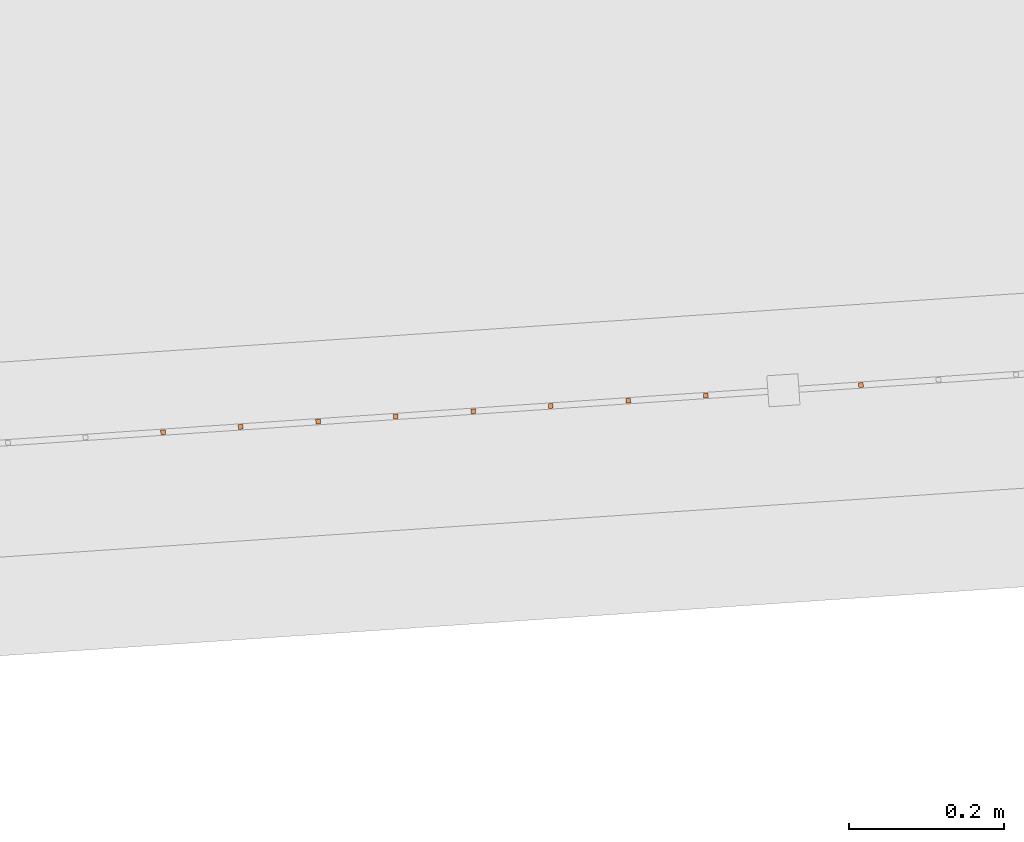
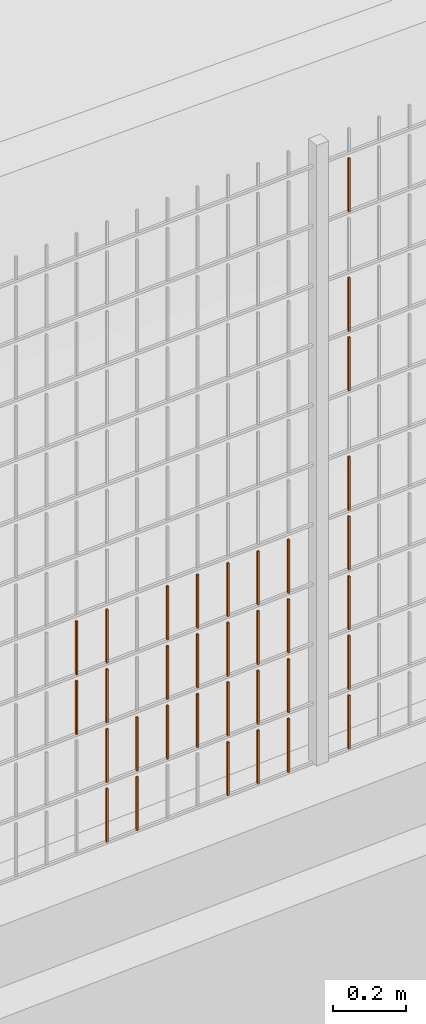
# One storey, part 364 of 1809: 34 proxies, 1 element without a shape of its own.
"""IFC2X3 building model written with IfcOpenShell, lengths in millimetres."""

import ifcopenshell
import ifcopenshell.guid

model = None  # the IFC model being written
_history = None  # IfcOwnerHistory: only IFC2X3 demands one
_inside = {}  # id of a spatial element -> (the spatial element, [elements in it])
_under = {}  # id of a project, library or spatial element -> (it, [spatial elements below it])
_declared = {}  # id of a project -> (the project, [libraries it declares])
_typed = {}  # id of a type object -> (the type object, [elements of that type])
_made_of = {}  # id of a material, layer set ... -> (it, [elements and type objects made of it])


def new_model(schema):
    """Start an empty IFC model of exactly this schema.

    Asked for "IFC4X3", IfcOpenShell would pick the latest addendum, in which some entities
    have other attributes; the version numbers below select the first issue.
    IFC2X3 requires an IfcOwnerHistory on every rooted entity: one is made here for all.
    """
    global model, _history
    if schema == "IFC4X3":
        model = ifcopenshell.file(schema_version=(4, 3, 0, 0))
    else:
        model = ifcopenshell.file(schema=schema)
    _inside.clear()
    _under.clear()
    _declared.clear()
    _typed.clear()
    _made_of.clear()
    _history = None
    if model.schema == "IFC2X3":
        org = make("IfcOrganization", Name="unknown")
        user = make(
            "IfcPersonAndOrganization",
            ThePerson=make("IfcPerson", FamilyName="unknown"),
            TheOrganization=org,
        )
        app = make(
            "IfcApplication",
            ApplicationDeveloper=org,
            Version="unknown",
            ApplicationFullName="unknown",
            ApplicationIdentifier="unknown",
        )
        _history = make(
            "IfcOwnerHistory",
            OwningUser=user,
            OwningApplication=app,
            ChangeAction="ADDED",
            CreationDate=0,
        )
    return model


def make(cls, **values):
    """One entity of the class cls with the attributes given. An attribute that is None is left unset."""
    return model.create_entity(
        cls, **{name: value for name, value in values.items() if value is not None}
    )


def entity(cls, *values):
    """Any entity or typed value of the class cls, its attributes in the order of the schema. None: left unset."""
    e = model.create_entity(cls)
    for i, value in enumerate(values):
        if value is not None:
            e[i] = value
    return e


def rooted(cls, **values):
    """An entity with a GlobalId (a new one), such as an element, a storey or a relation."""
    return make(cls, GlobalId=ifcopenshell.guid.new(), OwnerHistory=_history, **values)


def si_unit(unit_type, name, prefix=None):
    """IfcSIUnit, for example si_unit("LENGTHUNIT", "METRE", prefix="MILLI")."""
    return make("IfcSIUnit", UnitType=unit_type, Prefix=prefix, Name=name)


def converted_unit(unit_type, name, factor, base, dimensions=None, offset=None):
    """IfcConversionBasedUnit, such as the inch: factor (a typed value) times the base unit."""
    return make(
        "IfcConversionBasedUnit"
        if offset is None
        else "IfcConversionBasedUnitWithOffset",
        ConversionOffset=offset,
        Dimensions=None
        if dimensions is None
        else entity("IfcDimensionalExponents", *dimensions),
        UnitType=unit_type,
        Name=name,
        ConversionFactor=make(
            "IfcMeasureWithUnit", ValueComponent=factor, UnitComponent=base
        ),
    )


def derived_unit(unit_type, elements):
    """IfcDerivedUnit: a product of units, each with its exponent."""
    return make(
        "IfcDerivedUnit",
        Elements=[
            make("IfcDerivedUnitElement", Unit=unit, Exponent=power)
            for unit, power in elements
        ],
        UnitType=unit_type,
    )


def money_unit(currency):
    """IfcMonetaryUnit."""
    return make("IfcMonetaryUnit", Currency=currency)


def assignment(units):
    """IfcUnitAssignment: the units of a project."""
    return None if units is None else make("IfcUnitAssignment", Units=units)


def point(xyz):
    """IfcCartesianPoint."""
    return None if xyz is None else make("IfcCartesianPoint", Coordinates=xyz)


def direction(xyz):
    """IfcDirection."""
    return None if xyz is None else make("IfcDirection", DirectionRatios=xyz)


def frame(location, z_axis=None, x_axis=None):
    """IfcAxis2Placement3D, a coordinate frame: its origin and axes. An axis left out is left unset."""
    return make(
        "IfcAxis2Placement3D",
        Location=point(location),
        Axis=direction(z_axis),
        RefDirection=direction(x_axis),
    )


def origin_with_axes():
    """The frame at (0, 0, 0) with the z axis (0, 0, 1) and the x axis (1, 0, 0) written out."""
    return frame((0.0, 0.0, 0.0), z_axis=(0.0, 0.0, 1.0), x_axis=(1.0, 0.0, 0.0))


def place(relative_to, where):
    """IfcLocalPlacement: puts the frame where relative to a parent placement (None: the world)."""
    return make(
        "IfcLocalPlacement", PlacementRelTo=relative_to, RelativePlacement=where
    )


def context(
    kind, dimensions, precision=None, world=None, true_north=None, identifier=None
):
    """IfcGeometricRepresentationContext, for example the 3D "Model" context."""
    return make(
        "IfcGeometricRepresentationContext",
        ContextIdentifier=identifier,
        ContextType=kind,
        CoordinateSpaceDimension=dimensions,
        Precision=precision,
        WorldCoordinateSystem=world,
        TrueNorth=true_north,
    )


def subcontext(parent, identifier, kind, view, scale=None):
    """IfcGeometricRepresentationSubContext, for example "Body" below "Model"."""
    return make(
        "IfcGeometricRepresentationSubContext",
        ContextIdentifier=identifier,
        ContextType=kind,
        ParentContext=parent,
        TargetScale=scale,
        TargetView=view,
    )


def project(units=None, contexts=None):
    """IfcProject with its units and contexts."""
    return rooted(
        "IfcProject",
        Name="project",
        RepresentationContexts=contexts,
        UnitsInContext=assignment(units),
    )


def spatial(cls, under=None, at=None, **own):
    """A site, building, storey or space (cls), placed at a placement, below another one or the project."""
    s = rooted(cls, ObjectPlacement=at, **own)
    if under is not None:
        _under.setdefault(under.id(), (under, []))[1].append(s)
    return s


def faces_of(points, faces, orient=None, outer=None):
    """IfcFace entities. A face is a list of loops; a loop is a list of indices into points, from 0.

    orient and outer hold one flag for each loop. By default every Orientation is true, the
    first loop of a face is its IfcFaceOuterBound and the others are IfcFaceBound.
    """
    made = []
    for i, loops in enumerate(faces):
        bounds = []
        for j, loop in enumerate(loops):
            is_outer = j == 0 if outer is None else outer[i][j]
            bounds.append(
                make(
                    "IfcFaceOuterBound" if is_outer else "IfcFaceBound",
                    Bound=make("IfcPolyLoop", Polygon=[points[k] for k in loop]),
                    Orientation=True if orient is None else orient[i][j],
                )
            )
        made.append(make("IfcFace", Bounds=bounds))
    return made


def faceted_brep(points, faces, orient=None, outer=None, voids=None):
    """IfcFacetedBrep: a solid bounded by flat faces; with voids (closed shells), ...WithVoids."""
    shared = [point(p) for p in points]
    hull = make("IfcClosedShell", CfsFaces=faces_of(shared, faces, orient, outer))
    if voids is None:
        return make("IfcFacetedBrep", Outer=hull)
    return make(
        "IfcFacetedBrepWithVoids",
        Outer=hull,
        Voids=[
            make(cls, CfsFaces=faces_of(shared, fs, o, b)) for cls, fs, o, b in voids
        ],
    )


def shape(context_of_items, identifier, shape_type, items):
    """IfcShapeRepresentation: the items that make up one representation, for example the "Body"."""
    return make(
        "IfcShapeRepresentation",
        ContextOfItems=context_of_items,
        RepresentationIdentifier=identifier,
        RepresentationType=shape_type,
        Items=items,
    )


def source(mapping_origin, context_of_items, identifier, shape_type, items):
    """IfcRepresentationMap: a shape defined once, which mapped items show again and again."""
    return make(
        "IfcRepresentationMap",
        MappingOrigin=mapping_origin,
        MappedRepresentation=shape(context_of_items, identifier, shape_type, items),
    )


def transform(
    local_origin,
    x_axis=None,
    y_axis=None,
    z_axis=None,
    scale=None,
    scale2=None,
    scale3=None,
    uniform=True,
):
    """IfcCartesianTransformationOperator3D, or its non-uniform kind. x_axis, y_axis, z_axis: its Axis1, 2, 3."""
    if uniform:
        return make(
            "IfcCartesianTransformationOperator3D",
            Axis1=direction(x_axis),
            Axis2=direction(y_axis),
            LocalOrigin=point(local_origin),
            Scale=scale,
            Axis3=direction(z_axis),
        )
    return make(
        "IfcCartesianTransformationOperator3DnonUniform",
        Axis1=direction(x_axis),
        Axis2=direction(y_axis),
        LocalOrigin=point(local_origin),
        Scale=scale,
        Axis3=direction(z_axis),
        Scale2=scale2,
        Scale3=scale3,
    )


def mapped(mapping_source, mapping_target):
    """IfcMappedItem: shows the shape of a source again, moved by a transform."""
    return make(
        "IfcMappedItem", MappingSource=mapping_source, MappingTarget=mapping_target
    )


def material(Name=None, Category=None):
    """IfcMaterial."""
    return make("IfcMaterial", Name=Name, Category=Category)


def made_of(thing, what):
    """Note that an element or type object is made of a material, layer set ...; save() writes the relation."""
    if what is not None:
        _made_of.setdefault(what.id(), (what, []))[1].append(thing)
    return thing


def type_object(cls, material=None, **own):
    """A type object (cls), such as IfcWallType, which elements share."""
    return made_of(rooted(cls, **own), material)


def element(
    cls,
    number,
    at=None,
    inside=None,
    cuts=None,
    type_object=None,
    material=None,
    context=None,
    identifier="Body",
    shape_type=None,
    held_by="IfcProductDefinitionShape",
    body=None,
    shapes=None,
    **own,
):
    """One element of the class cls, such as IfcWall. Its Tag is "e" and its number.

    at: its placement. inside: the storey or other place that contains it. cuts: it is an
    opening in that element (IfcRelVoidsElement). A single representation is given by context,
    identifier, shape_type and body (its items); several are given by shapes. held_by: the class
    of the entity that holds the representations. save() writes the other relations.
    """
    e = rooted(cls, Tag="e%d" % number, ObjectPlacement=at, **own)
    if body is not None:
        shapes = [shape(context, identifier, shape_type, body)]
    if shapes is not None:
        e.Representation = make(held_by, Representations=shapes)
    if inside is not None:
        _inside.setdefault(inside.id(), (inside, []))[1].append(e)
    if cuts is not None:
        rooted(
            "IfcRelVoidsElement", RelatingBuildingElement=cuts, RelatedOpeningElement=e
        )
    if type_object is not None:
        _typed.setdefault(type_object.id(), (type_object, []))[1].append(e)
    return made_of(e, material)


def aggregate(whole, parts):
    """IfcRelAggregates: a whole, such as a stair, and the parts it consists of."""
    return rooted("IfcRelAggregates", RelatingObject=whole, RelatedObjects=parts)


def save(model, path):
    """Write the relations noted so far, then the file.

    IfcRelAggregates (storeys below a building ...), IfcRelContainedInSpatialStructure (elements
    in a storey), IfcRelDefinesByType, IfcRelAssociatesMaterial and IfcRelDeclares: one each for
    every whole, place, type object, material and project.
    """
    for whole, parts in _under.values():
        aggregate(whole, parts)
    for where, things in _inside.values():
        rooted(
            "IfcRelContainedInSpatialStructure",
            RelatedElements=things,
            RelatingStructure=where,
        )
    for kind, things in _typed.values():
        rooted("IfcRelDefinesByType", RelatedObjects=things, RelatingType=kind)
    for what, things in _made_of.values():
        rooted("IfcRelAssociatesMaterial", RelatedObjects=things, RelatingMaterial=what)
    for by, libraries in _declared.values():
        rooted("IfcRelDeclares", RelatingContext=by, RelatedDefinitions=libraries)
    model.write(path)


model = new_model("IFC2X3")

# Units and contexts
model_context = context("Model", 3, precision=0.01, world=origin_with_axes(), true_north=direction((0.0, 1.0)))
body_context = subcontext(model_context, "Body", "Model", "MODEL_VIEW")
ifc_project = project(units=[si_unit("LENGTHUNIT", "METRE", prefix="MILLI"), si_unit("AREAUNIT", "SQUARE_METRE"), si_unit("VOLUMEUNIT", "CUBIC_METRE"), converted_unit("PLANEANGLEUNIT", "DEGREE", entity("IfcPlaneAngleMeasure", 0.0174532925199), si_unit("PLANEANGLEUNIT", "RADIAN"), dimensions=[0, 0, 0, 0, 0, 0, 0]), si_unit("SOLIDANGLEUNIT", "STERADIAN"), money_unit("EUR"), converted_unit("TIMEUNIT", "Year", entity("IfcTimeMeasure", 31556926.0), si_unit("TIMEUNIT", "SECOND"), dimensions=[0, 0, 1, 0, 0, 0, 0]), si_unit("MASSUNIT", "GRAM", prefix="KILO"), si_unit("THERMODYNAMICTEMPERATUREUNIT", "DEGREE_CELSIUS"), si_unit("LUMINOUSINTENSITYUNIT", "LUMEN"), si_unit("ENERGYUNIT", "JOULE", prefix="MEGA"), derived_unit("THERMALCONDUCTANCEUNIT", [(si_unit("POWERUNIT", "WATT"), 1), (si_unit("LENGTHUNIT", "METRE"), -1), (si_unit("THERMODYNAMICTEMPERATUREUNIT", "KELVIN"), -1)]), derived_unit("SPECIFICHEATCAPACITYUNIT", [(si_unit("ENERGYUNIT", "JOULE"), 1), (si_unit("MASSUNIT", "GRAM", prefix="KILO"), -1), (si_unit("THERMODYNAMICTEMPERATUREUNIT", "KELVIN"), -1)]), derived_unit("MASSDENSITYUNIT", [(si_unit("MASSUNIT", "GRAM", prefix="KILO"), 1), (si_unit("VOLUMEUNIT", "CUBIC_METRE"), -1)])], contexts=[model_context])

# Site, building, storey
site_placement = place(None, origin_with_axes())
site = spatial("IfcSite", under=ifc_project, at=site_placement, Name="Politse- ja Piirivalveameti ning Päästeameti ühishoone", CompositionType="ELEMENT")
building_placement = place(site_placement, origin_with_axes())
building = spatial("IfcBuilding", under=site, at=building_placement, Name="Politse- ja Piirivalveameti ning Päästeameti ühishoone", CompositionType="ELEMENT")
storey_placement = place(building_placement, origin_with_axes())
storey = spatial("IfcBuildingStorey", under=building, at=storey_placement, Name="Esimene korrus", CompositionType="ELEMENT", Elevation=0.0)

# Proxies
building_element_proxy_type_1 = type_object("IfcBuildingElementProxyType", Name="Railing Type", PredefinedType="NOTDEFINED")
proxy_1_placement = place(storey_placement, frame((89252.001212, -29183.4766571, 203.661247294), z_axis=(0.0, 0.0, 1.0), x_axis=(1.0, 0.0, 0.0)))
proxy_1 = element("IfcBuildingElementProxy", 1, at=proxy_1_placement, inside=storey, type_object=building_element_proxy_type_1, Name="PIIRDEAED")
ifc_material = material(Name="ET-03_Raud")
building_element_proxy_type_2 = type_object("IfcBuildingElementProxyType", Name="IfcBuildingElementProxy", PredefinedType="NOTDEFINED")
shared_shape_1 = source(origin_with_axes(), body_context, "Body", "Brep", [
    faceted_brep([(3.0, 3.0, -0.000752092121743), (-3.0, 3.0, -0.000752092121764), (-3.0, 3.0, 179.99926046), (3.0, 3.0, 179.99926046), (3.0, -3.0, 0.000752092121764), (-3.0, -3.0, 0.000752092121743), (-3.0, -3.0, 180.000764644), (3.0, -3.0, 180.000764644)], [[[0, 1, 2, 3]], [[0, 4, 5, 1]], [[1, 5, 6, 2]], [[3, 2, 6, 7]], [[4, 0, 3, 7]], [[5, 4, 7, 6]]]),
])
proxy_2_placement = place(proxy_1_placement, frame((-22974.3374905, -18849.6045571, 21.4616553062), z_axis=(0.0, 0.0, 1.0), x_axis=(1.0, 0.0, 0.0)))
proxy_2 = element("IfcBuildingElementProxy", 2, at=proxy_2_placement, type_object=building_element_proxy_type_2, material=ifc_material, Name="BALUSTER - 001", context=body_context, shape_type="MappedRepresentation", body=[
    mapped(shared_shape_1, transform((0.0, 0.0, 0.0), x_axis=(-0.0673926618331, 0.997726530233, 0.0), y_axis=(-0.997726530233, -0.0673926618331, 0.0), z_axis=(0.0, 0.0, 1.0))),
])
shared_shape_2 = source(origin_with_axes(), body_context, "Body", "Brep", [
    faceted_brep([(3.0, 3.0, -0.000752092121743), (-3.0, 3.0, -0.000752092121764), (-3.0, 3.0, 179.99926046), (3.0, 3.0, 179.99926046), (3.0, -3.0, 0.000752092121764), (-3.0, -3.0, 0.000752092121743), (-3.0, -3.0, 180.000764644), (3.0, -3.0, 180.000764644)], [[[0, 1, 2, 3]], [[0, 4, 5, 1]], [[1, 5, 6, 2]], [[3, 2, 6, 7]], [[4, 0, 3, 7]], [[5, 4, 7, 6]]]),
])
proxy_3_placement = place(proxy_1_placement, frame((-22974.3374905, -18849.6045571, 221.461655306), z_axis=(0.0, 0.0, 1.0), x_axis=(1.0, 0.0, 0.0)))
proxy_3 = element("IfcBuildingElementProxy", 3, at=proxy_3_placement, type_object=building_element_proxy_type_2, material=ifc_material, Name="BALUSTER - 001", context=body_context, shape_type="MappedRepresentation", body=[
    mapped(shared_shape_2, transform((0.0, 0.0, 0.0), x_axis=(-0.0673926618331, 0.997726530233, 0.0), y_axis=(-0.997726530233, -0.0673926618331, 0.0), z_axis=(0.0, 0.0, 1.0))),
])
proxy_4_placement = place(proxy_1_placement, frame((-22974.3374905, -18849.6045571, 421.461655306), z_axis=(0.0, 0.0, 1.0), x_axis=(1.0, 0.0, 0.0)))
proxy_4 = element("IfcBuildingElementProxy", 4, at=proxy_4_placement, type_object=building_element_proxy_type_2, material=ifc_material, Name="BALUSTER - 001", context=body_context, shape_type="MappedRepresentation", body=[
    mapped(shared_shape_2, transform((0.0, 0.0, 0.0), x_axis=(-0.0673926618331, 0.997726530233, 0.0), y_axis=(-0.997726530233, -0.0673926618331, 0.0), z_axis=(0.0, 0.0, 1.0))),
])
shared_shape_3 = source(origin_with_axes(), body_context, "Body", "Brep", [
    faceted_brep([(3.0, 3.0, -0.000752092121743), (-3.0, 3.0, -0.000752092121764), (-3.0, 3.0, 179.99926046), (3.0, 3.0, 179.99926046), (3.0, -3.0, 0.000752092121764), (-3.0, -3.0, 0.000752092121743), (-3.0, -3.0, 180.000764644), (3.0, -3.0, 180.000764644)], [[[0, 1, 2, 3]], [[0, 4, 5, 1]], [[1, 5, 6, 2]], [[3, 2, 6, 7]], [[4, 0, 3, 7]], [[5, 4, 7, 6]]]),
])
proxy_5_placement = place(proxy_1_placement, frame((-22974.3374905, -18849.6045571, 621.461655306), z_axis=(0.0, 0.0, 1.0), x_axis=(1.0, 0.0, 0.0)))
proxy_5 = element("IfcBuildingElementProxy", 5, at=proxy_5_placement, type_object=building_element_proxy_type_2, material=ifc_material, Name="BALUSTER - 001", context=body_context, shape_type="MappedRepresentation", body=[
    mapped(shared_shape_3, transform((0.0, 0.0, 0.0), x_axis=(-0.0673926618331, 0.997726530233, 0.0), y_axis=(-0.997726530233, -0.0673926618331, 0.0), z_axis=(0.0, 0.0, 1.0))),
])
shared_shape_4 = source(origin_with_axes(), body_context, "Body", "Brep", [
    faceted_brep([(3.0, 3.0, -0.000752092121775), (-3.0, 3.0, -0.000752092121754), (-3.0, 3.0, 179.99926046), (3.0, 3.0, 179.99926046), (3.0, -3.0, 0.000752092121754), (-3.0, -3.0, 0.000752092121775), (-3.0, -3.0, 180.000764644), (3.0, -3.0, 180.000764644)], [[[0, 1, 2, 3]], [[0, 4, 5, 1]], [[1, 5, 6, 2]], [[3, 2, 6, 7]], [[4, 0, 3, 7]], [[5, 4, 7, 6]]]),
])
proxy_6_placement = place(proxy_1_placement, frame((-22176.1562664, -18795.6904276, 21.6622132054), z_axis=(0.0, 0.0, 1.0), x_axis=(1.0, 0.0, 0.0)))
proxy_6 = element("IfcBuildingElementProxy", 6, at=proxy_6_placement, type_object=building_element_proxy_type_2, material=ifc_material, Name="BALUSTER - 001", context=body_context, shape_type="MappedRepresentation", body=[
    mapped(shared_shape_4, transform((0.0, 0.0, 0.0), x_axis=(-0.0673926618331, 0.997726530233, 0.0), y_axis=(-0.997726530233, -0.0673926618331, 0.0), z_axis=(0.0, 0.0, 1.0))),
])
shared_shape_5 = source(origin_with_axes(), body_context, "Body", "Brep", [
    faceted_brep([(3.0, 3.0, -0.000752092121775), (-3.0, 3.0, -0.000752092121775), (-3.0, 3.0, 179.99926046), (3.0, 3.0, 179.99926046), (3.0, -3.0, 0.000752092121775), (-3.0, -3.0, 0.000752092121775), (-3.0, -3.0, 180.000764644), (3.0, -3.0, 180.000764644)], [[[0, 1, 2, 3]], [[0, 4, 5, 1]], [[1, 5, 6, 2]], [[3, 2, 6, 7]], [[4, 0, 3, 7]], [[5, 4, 7, 6]]]),
])
proxy_7_placement = place(proxy_1_placement, frame((-22575.2468785, -18822.6474923, 221.561934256), z_axis=(0.0, 0.0, 1.0), x_axis=(1.0, 0.0, 0.0)))
proxy_7 = element("IfcBuildingElementProxy", 7, at=proxy_7_placement, type_object=building_element_proxy_type_2, material=ifc_material, Name="BALUSTER - 001", context=body_context, shape_type="MappedRepresentation", body=[
    mapped(shared_shape_5, transform((0.0, 0.0, 0.0), x_axis=(-0.0673926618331, 0.997726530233, 0.0), y_axis=(-0.997726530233, -0.0673926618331, 0.0), z_axis=(0.0, 0.0, 1.0))),
])
proxy_8_placement = place(proxy_1_placement, frame((-22575.2468785, -18822.6474923, 621.561934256), z_axis=(0.0, 0.0, 1.0), x_axis=(1.0, 0.0, 0.0)))
proxy_8 = element("IfcBuildingElementProxy", 8, at=proxy_8_placement, type_object=building_element_proxy_type_2, material=ifc_material, Name="BALUSTER - 001", context=body_context, shape_type="MappedRepresentation", body=[
    mapped(shared_shape_5, transform((0.0, 0.0, 0.0), x_axis=(-0.0673926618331, 0.997726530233, 0.0), y_axis=(-0.997726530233, -0.0673926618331, 0.0), z_axis=(0.0, 0.0, 1.0))),
])
shared_shape_6 = source(origin_with_axes(), body_context, "Body", "Brep", [
    faceted_brep([(3.0, 3.0, -0.000752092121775), (-3.0, 3.0, -0.000752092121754), (-3.0, 3.0, 179.99926046), (3.0, 3.0, 179.99926046), (3.0, -3.0, 0.000752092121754), (-3.0, -3.0, 0.000752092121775), (-3.0, -3.0, 180.000764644), (3.0, -3.0, 180.000764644)], [[[0, 1, 2, 3]], [[0, 4, 5, 1]], [[1, 5, 6, 2]], [[3, 2, 6, 7]], [[4, 0, 3, 7]], [[5, 4, 7, 6]]]),
])
proxy_9_placement = place(proxy_1_placement, frame((-22176.1562664, -18795.6904276, 221.662213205), z_axis=(0.0, 0.0, 1.0), x_axis=(1.0, 0.0, 0.0)))
proxy_9 = element("IfcBuildingElementProxy", 9, at=proxy_9_placement, type_object=building_element_proxy_type_2, material=ifc_material, Name="BALUSTER - 001", context=body_context, shape_type="MappedRepresentation", body=[
    mapped(shared_shape_6, transform((0.0, 0.0, 0.0), x_axis=(-0.0673926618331, 0.997726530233, 0.0), y_axis=(-0.997726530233, -0.0673926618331, 0.0), z_axis=(0.0, 0.0, 1.0))),
])
shared_shape_7 = source(origin_with_axes(), body_context, "Body", "Brep", [
    faceted_brep([(3.0, 3.0, -0.000752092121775), (-3.0, 3.0, -0.000752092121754), (-3.0, 3.0, 179.99926046), (3.0, 3.0, 179.99926046), (3.0, -3.0, 0.000752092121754), (-3.0, -3.0, 0.000752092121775), (-3.0, -3.0, 180.000764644), (3.0, -3.0, 180.000764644)], [[[0, 1, 2, 3]], [[0, 4, 5, 1]], [[1, 5, 6, 2]], [[3, 2, 6, 7]], [[4, 0, 3, 7]], [[5, 4, 7, 6]]]),
])
proxy_10_placement = place(proxy_1_placement, frame((-22176.1562664, -18795.6904276, 421.662213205), z_axis=(0.0, 0.0, 1.0), x_axis=(1.0, 0.0, 0.0)))
proxy_10 = element("IfcBuildingElementProxy", 10, at=proxy_10_placement, type_object=building_element_proxy_type_2, material=ifc_material, Name="BALUSTER - 001", context=body_context, shape_type="MappedRepresentation", body=[
    mapped(shared_shape_7, transform((0.0, 0.0, 0.0), x_axis=(-0.0673926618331, 0.997726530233, 0.0), y_axis=(-0.997726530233, -0.0673926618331, 0.0), z_axis=(0.0, 0.0, 1.0))),
])
shared_shape_8 = source(origin_with_axes(), body_context, "Body", "Brep", [
    faceted_brep([(3.0, 3.0, -0.000752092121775), (-3.0, 3.0, -0.000752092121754), (-3.0, 3.0, 179.99926046), (3.0, 3.0, 179.99926046), (3.0, -3.0, 0.000752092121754), (-3.0, -3.0, 0.000752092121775), (-3.0, -3.0, 180.000764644), (3.0, -3.0, 180.000764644)], [[[0, 1, 2, 3]], [[0, 4, 5, 1]], [[1, 5, 6, 2]], [[3, 2, 6, 7]], [[4, 0, 3, 7]], [[5, 4, 7, 6]]]),
])
proxy_11_placement = place(proxy_1_placement, frame((-22176.1562664, -18795.6904276, 621.662213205), z_axis=(0.0, 0.0, 1.0), x_axis=(1.0, 0.0, 0.0)))
proxy_11 = element("IfcBuildingElementProxy", 11, at=proxy_11_placement, type_object=building_element_proxy_type_2, material=ifc_material, Name="BALUSTER - 001", context=body_context, shape_type="MappedRepresentation", body=[
    mapped(shared_shape_8, transform((0.0, 0.0, 0.0), x_axis=(-0.0673926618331, 0.997726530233, 0.0), y_axis=(-0.997726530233, -0.0673926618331, 0.0), z_axis=(0.0, 0.0, 1.0))),
])
shared_shape_9 = source(origin_with_axes(), body_context, "Body", "Brep", [
    faceted_brep([(3.0, 3.0, -0.000752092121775), (-3.0, 3.0, -0.000752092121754), (-3.0, 3.0, 179.99926046), (3.0, 3.0, 179.99926046), (3.0, -3.0, 0.000752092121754), (-3.0, -3.0, 0.000752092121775), (-3.0, -3.0, 180.000764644), (3.0, -3.0, 180.000764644)], [[[0, 1, 2, 3]], [[0, 4, 5, 1]], [[1, 5, 6, 2]], [[3, 2, 6, 7]], [[4, 0, 3, 7]], [[5, 4, 7, 6]]]),
])
proxy_12_placement = place(proxy_1_placement, frame((-22176.1562664, -18795.6904276, 821.662213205), z_axis=(0.0, 0.0, 1.0), x_axis=(1.0, 0.0, 0.0)))
proxy_12 = element("IfcBuildingElementProxy", 12, at=proxy_12_placement, type_object=building_element_proxy_type_2, material=ifc_material, Name="BALUSTER - 001", context=body_context, shape_type="MappedRepresentation", body=[
    mapped(shared_shape_9, transform((0.0, 0.0, 0.0), x_axis=(-0.0673926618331, 0.997726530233, 0.0), y_axis=(-0.997726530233, -0.0673926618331, 0.0), z_axis=(0.0, 0.0, 1.0))),
])
shared_shape_10 = source(origin_with_axes(), body_context, "Body", "Brep", [
    faceted_brep([(3.0, 3.0, -0.000752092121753), (-3.0, 3.0, -0.000752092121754), (-3.0, 3.0, 179.99926046), (3.0, 3.0, 179.99926046), (3.0, -3.0, 0.000752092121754), (-3.0, -3.0, 0.000752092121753), (-3.0, -3.0, 180.000764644), (3.0, -3.0, 180.000764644)], [[[0, 1, 2, 3]], [[0, 4, 5, 1]], [[1, 5, 6, 2]], [[3, 2, 6, 7]], [[4, 0, 3, 7]], [[5, 4, 7, 6]]]),
])
proxy_13_placement = place(proxy_1_placement, frame((-22176.1562664, -18795.6904276, 1221.66221321), z_axis=(0.0, 0.0, 1.0), x_axis=(1.0, 0.0, 0.0)))
proxy_13 = element("IfcBuildingElementProxy", 13, at=proxy_13_placement, type_object=building_element_proxy_type_2, material=ifc_material, Name="BALUSTER - 001", context=body_context, shape_type="MappedRepresentation", body=[
    mapped(shared_shape_10, transform((0.0, 0.0, 0.0), x_axis=(-0.0673926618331, 0.997726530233, 0.0), y_axis=(-0.997726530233, -0.0673926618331, 0.0), z_axis=(0.0, 0.0, 1.0))),
])
shared_shape_11 = source(origin_with_axes(), body_context, "Body", "Brep", [
    faceted_brep([(3.0, 3.0, -0.000752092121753), (-3.0, 3.0, -0.000752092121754), (-3.0, 3.0, 179.99926046), (3.0, 3.0, 179.99926046), (3.0, -3.0, 0.000752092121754), (-3.0, -3.0, 0.000752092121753), (-3.0, -3.0, 180.000764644), (3.0, -3.0, 180.000764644)], [[[0, 1, 2, 3]], [[0, 4, 5, 1]], [[1, 5, 6, 2]], [[3, 2, 6, 7]], [[4, 0, 3, 7]], [[5, 4, 7, 6]]]),
])
proxy_14_placement = place(proxy_1_placement, frame((-22176.1562664, -18795.6904276, 1421.66221321), z_axis=(0.0, 0.0, 1.0), x_axis=(1.0, 0.0, 0.0)))
proxy_14 = element("IfcBuildingElementProxy", 14, at=proxy_14_placement, type_object=building_element_proxy_type_2, material=ifc_material, Name="BALUSTER - 001", context=body_context, shape_type="MappedRepresentation", body=[
    mapped(shared_shape_11, transform((0.0, 0.0, 0.0), x_axis=(-0.0673926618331, 0.997726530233, 0.0), y_axis=(-0.997726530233, -0.0673926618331, 0.0), z_axis=(0.0, 0.0, 1.0))),
])
shared_shape_12 = source(origin_with_axes(), body_context, "Body", "Brep", [
    faceted_brep([(3.0, 3.0, -0.000752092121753), (-3.0, 3.0, -0.000752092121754), (-3.0, 3.0, 179.99926046), (3.0, 3.0, 179.99926046), (3.0, -3.0, 0.000752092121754), (-3.0, -3.0, 0.000752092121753), (-3.0, -3.0, 180.000764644), (3.0, -3.0, 180.000764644)], [[[0, 1, 2, 3]], [[0, 4, 5, 1]], [[1, 5, 6, 2]], [[3, 2, 6, 7]], [[4, 0, 3, 7]], [[5, 4, 7, 6]]]),
])
proxy_15_placement = place(proxy_1_placement, frame((-22176.1562664, -18795.6904276, 1821.66221321), z_axis=(0.0, 0.0, 1.0), x_axis=(1.0, 0.0, 0.0)))
proxy_15 = element("IfcBuildingElementProxy", 15, at=proxy_15_placement, type_object=building_element_proxy_type_2, material=ifc_material, Name="BALUSTER - 001", context=body_context, shape_type="MappedRepresentation", body=[
    mapped(shared_shape_12, transform((0.0, 0.0, 0.0), x_axis=(-0.0673926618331, 0.997726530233, 0.0), y_axis=(-0.997726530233, -0.0673926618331, 0.0), z_axis=(0.0, 0.0, 1.0))),
])
shared_shape_13 = source(origin_with_axes(), body_context, "Body", "Brep", [
    faceted_brep([(3.0, 3.0, -0.000752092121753), (-3.0, 3.0, -0.000752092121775), (-3.0, 3.0, 179.99926046), (3.0, 3.0, 179.99926046), (3.0, -3.0, 0.000752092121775), (-3.0, -3.0, 0.000752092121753), (-3.0, -3.0, 180.000764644), (3.0, -3.0, 180.000764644)], [[[0, 1, 2, 3]], [[0, 4, 5, 1]], [[1, 5, 6, 2]], [[3, 2, 6, 7]], [[4, 0, 3, 7]], [[5, 4, 7, 6]]]),
])
proxy_16_placement = place(proxy_1_placement, frame((-22375.7015724, -18809.16896, 21.6120737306), z_axis=(0.0, 0.0, 1.0), x_axis=(1.0, 0.0, 0.0)))
proxy_16 = element("IfcBuildingElementProxy", 16, at=proxy_16_placement, type_object=building_element_proxy_type_2, material=ifc_material, Name="BALUSTER - 001", context=body_context, shape_type="MappedRepresentation", body=[
    mapped(shared_shape_13, transform((0.0, 0.0, 0.0), x_axis=(-0.0673926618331, 0.997726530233, 0.0), y_axis=(-0.997726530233, -0.0673926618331, 0.0), z_axis=(0.0, 0.0, 1.0))),
])
shared_shape_14 = source(origin_with_axes(), body_context, "Body", "Brep", [
    faceted_brep([(3.0, 3.0, -0.000752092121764), (-3.0, 3.0, -0.000752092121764), (-3.0, 3.0, 179.99926046), (3.0, 3.0, 179.99926046), (3.0, -3.0, 0.000752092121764), (-3.0, -3.0, 0.000752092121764), (-3.0, -3.0, 180.000764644), (3.0, -3.0, 180.000764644)], [[[0, 1, 2, 3]], [[0, 4, 5, 1]], [[1, 5, 6, 2]], [[3, 2, 6, 7]], [[4, 0, 3, 7]], [[5, 4, 7, 6]]]),
])
proxy_17_placement = place(proxy_1_placement, frame((-22475.4742254, -18815.9082262, 21.5870039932), z_axis=(0.0, 0.0, 1.0), x_axis=(1.0, 0.0, 0.0)))
proxy_17 = element("IfcBuildingElementProxy", 17, at=proxy_17_placement, type_object=building_element_proxy_type_2, material=ifc_material, Name="BALUSTER - 001", context=body_context, shape_type="MappedRepresentation", body=[
    mapped(shared_shape_14, transform((0.0, 0.0, 0.0), x_axis=(-0.0673926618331, 0.997726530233, 0.0), y_axis=(-0.997726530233, -0.0673926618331, 0.0), z_axis=(0.0, 0.0, 1.0))),
])
shared_shape_15 = source(origin_with_axes(), body_context, "Body", "Brep", [
    faceted_brep([(3.0, 3.0, -0.000752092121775), (-3.0, 3.0, -0.000752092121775), (-3.0, 3.0, 179.99926046), (3.0, 3.0, 179.99926046), (3.0, -3.0, 0.000752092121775), (-3.0, -3.0, 0.000752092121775), (-3.0, -3.0, 180.000764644), (3.0, -3.0, 180.000764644)], [[[0, 1, 2, 3]], [[0, 4, 5, 1]], [[1, 5, 6, 2]], [[3, 2, 6, 7]], [[4, 0, 3, 7]], [[5, 4, 7, 6]]]),
])
proxy_18_placement = place(proxy_1_placement, frame((-22575.2468785, -18822.6474923, 21.5619342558), z_axis=(0.0, 0.0, 1.0), x_axis=(1.0, 0.0, 0.0)))
proxy_18 = element("IfcBuildingElementProxy", 18, at=proxy_18_placement, type_object=building_element_proxy_type_2, material=ifc_material, Name="BALUSTER - 001", context=body_context, shape_type="MappedRepresentation", body=[
    mapped(shared_shape_15, transform((0.0, 0.0, 0.0), x_axis=(-0.0673926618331, 0.997726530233, 0.0), y_axis=(-0.997726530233, -0.0673926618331, 0.0), z_axis=(0.0, 0.0, 1.0))),
])
shared_shape_16 = source(origin_with_axes(), body_context, "Body", "Brep", [
    faceted_brep([(3.0, 3.0, -0.000752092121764), (-3.0, 3.0, -0.000752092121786), (-3.0, 3.0, 179.99926046), (3.0, 3.0, 179.99926046), (3.0, -3.0, 0.000752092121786), (-3.0, -3.0, 0.000752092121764), (-3.0, -3.0, 180.000764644), (3.0, -3.0, 180.000764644)], [[[0, 1, 2, 3]], [[0, 4, 5, 1]], [[1, 5, 6, 2]], [[3, 2, 6, 7]], [[4, 0, 3, 7]], [[5, 4, 7, 6]]]),
])
proxy_19_placement = place(proxy_1_placement, frame((-22874.5648375, -18842.8652909, 21.4867250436), z_axis=(0.0, 0.0, 1.0), x_axis=(1.0, 0.0, 0.0)))
proxy_19 = element("IfcBuildingElementProxy", 19, at=proxy_19_placement, type_object=building_element_proxy_type_2, material=ifc_material, Name="BALUSTER - 001", context=body_context, shape_type="MappedRepresentation", body=[
    mapped(shared_shape_16, transform((0.0, 0.0, 0.0), x_axis=(-0.0673926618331, 0.997726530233, 0.0), y_axis=(-0.997726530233, -0.0673926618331, 0.0), z_axis=(0.0, 0.0, 1.0))),
])
proxy_20_placement = place(proxy_1_placement, frame((-22874.5648375, -18842.8652909, 221.486725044), z_axis=(0.0, 0.0, 1.0), x_axis=(1.0, 0.0, 0.0)))
proxy_20 = element("IfcBuildingElementProxy", 20, at=proxy_20_placement, type_object=building_element_proxy_type_2, material=ifc_material, Name="BALUSTER - 001", context=body_context, shape_type="MappedRepresentation", body=[
    mapped(shared_shape_16, transform((0.0, 0.0, 0.0), x_axis=(-0.0673926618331, 0.997726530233, 0.0), y_axis=(-0.997726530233, -0.0673926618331, 0.0), z_axis=(0.0, 0.0, 1.0))),
])
shared_shape_17 = source(origin_with_axes(), body_context, "Body", "Brep", [
    faceted_brep([(3.0, 3.0, -0.000752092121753), (-3.0, 3.0, -0.000752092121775), (-3.0, 3.0, 179.99926046), (3.0, 3.0, 179.99926046), (3.0, -3.0, 0.000752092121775), (-3.0, -3.0, 0.000752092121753), (-3.0, -3.0, 180.000764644), (3.0, -3.0, 180.000764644)], [[[0, 1, 2, 3]], [[0, 4, 5, 1]], [[1, 5, 6, 2]], [[3, 2, 6, 7]], [[4, 0, 3, 7]], [[5, 4, 7, 6]]]),
])
proxy_21_placement = place(proxy_1_placement, frame((-22375.7015724, -18809.16896, 221.612073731), z_axis=(0.0, 0.0, 1.0), x_axis=(1.0, 0.0, 0.0)))
proxy_21 = element("IfcBuildingElementProxy", 21, at=proxy_21_placement, type_object=building_element_proxy_type_2, material=ifc_material, Name="BALUSTER - 001", context=body_context, shape_type="MappedRepresentation", body=[
    mapped(shared_shape_17, transform((0.0, 0.0, 0.0), x_axis=(-0.0673926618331, 0.997726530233, 0.0), y_axis=(-0.997726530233, -0.0673926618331, 0.0), z_axis=(0.0, 0.0, 1.0))),
])
shared_shape_18 = source(origin_with_axes(), body_context, "Body", "Brep", [
    faceted_brep([(3.0, 3.0, -0.000752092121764), (-3.0, 3.0, -0.000752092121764), (-3.0, 3.0, 179.99926046), (3.0, 3.0, 179.99926046), (3.0, -3.0, 0.000752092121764), (-3.0, -3.0, 0.000752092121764), (-3.0, -3.0, 180.000764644), (3.0, -3.0, 180.000764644)], [[[0, 1, 2, 3]], [[0, 4, 5, 1]], [[1, 5, 6, 2]], [[3, 2, 6, 7]], [[4, 0, 3, 7]], [[5, 4, 7, 6]]]),
])
proxy_22_placement = place(proxy_1_placement, frame((-22475.4742254, -18815.9082262, 221.587003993), z_axis=(0.0, 0.0, 1.0), x_axis=(1.0, 0.0, 0.0)))
proxy_22 = element("IfcBuildingElementProxy", 22, at=proxy_22_placement, type_object=building_element_proxy_type_2, material=ifc_material, Name="BALUSTER - 001", context=body_context, shape_type="MappedRepresentation", body=[
    mapped(shared_shape_18, transform((0.0, 0.0, 0.0), x_axis=(-0.0673926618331, 0.997726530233, 0.0), y_axis=(-0.997726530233, -0.0673926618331, 0.0), z_axis=(0.0, 0.0, 1.0))),
])
proxy_23_placement = place(proxy_1_placement, frame((-22475.4742254, -18815.9082262, 421.587003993), z_axis=(0.0, 0.0, 1.0), x_axis=(1.0, 0.0, 0.0)))
proxy_23 = element("IfcBuildingElementProxy", 23, at=proxy_23_placement, type_object=building_element_proxy_type_2, material=ifc_material, Name="BALUSTER - 001", context=body_context, shape_type="MappedRepresentation", body=[
    mapped(shared_shape_18, transform((0.0, 0.0, 0.0), x_axis=(-0.0673926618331, 0.997726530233, 0.0), y_axis=(-0.997726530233, -0.0673926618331, 0.0), z_axis=(0.0, 0.0, 1.0))),
])
shared_shape_19 = source(origin_with_axes(), body_context, "Body", "Brep", [
    faceted_brep([(3.0, 3.0, -0.000752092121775), (-3.0, 3.0, -0.000752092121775), (-3.0, 3.0, 179.99926046), (3.0, 3.0, 179.99926046), (3.0, -3.0, 0.000752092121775), (-3.0, -3.0, 0.000752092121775), (-3.0, -3.0, 180.000764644), (3.0, -3.0, 180.000764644)], [[[0, 1, 2, 3]], [[0, 4, 5, 1]], [[1, 5, 6, 2]], [[3, 2, 6, 7]], [[4, 0, 3, 7]], [[5, 4, 7, 6]]]),
])
proxy_24_placement = place(proxy_1_placement, frame((-22675.0195315, -18829.3867585, 221.536864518), z_axis=(0.0, 0.0, 1.0), x_axis=(1.0, 0.0, 0.0)))
proxy_24 = element("IfcBuildingElementProxy", 24, at=proxy_24_placement, type_object=building_element_proxy_type_2, material=ifc_material, Name="BALUSTER - 001", context=body_context, shape_type="MappedRepresentation", body=[
    mapped(shared_shape_19, transform((0.0, 0.0, 0.0), x_axis=(-0.0673926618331, 0.997726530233, 0.0), y_axis=(-0.997726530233, -0.0673926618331, 0.0), z_axis=(0.0, 0.0, 1.0))),
])
proxy_25_placement = place(proxy_1_placement, frame((-22774.7921845, -18836.1260247, 221.511794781), z_axis=(0.0, 0.0, 1.0), x_axis=(1.0, 0.0, 0.0)))
proxy_25 = element("IfcBuildingElementProxy", 25, at=proxy_25_placement, type_object=building_element_proxy_type_2, material=ifc_material, Name="BALUSTER - 001", context=body_context, shape_type="MappedRepresentation", body=[
    mapped(shared_shape_19, transform((0.0, 0.0, 0.0), x_axis=(-0.0673926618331, 0.997726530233, 0.0), y_axis=(-0.997726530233, -0.0673926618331, 0.0), z_axis=(0.0, 0.0, 1.0))),
])
shared_shape_20 = source(origin_with_axes(), body_context, "Body", "Brep", [
    faceted_brep([(3.0, 3.0, -0.000752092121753), (-3.0, 3.0, -0.000752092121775), (-3.0, 3.0, 179.99926046), (3.0, 3.0, 179.99926046), (3.0, -3.0, 0.000752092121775), (-3.0, -3.0, 0.000752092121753), (-3.0, -3.0, 180.000764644), (3.0, -3.0, 180.000764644)], [[[0, 1, 2, 3]], [[0, 4, 5, 1]], [[1, 5, 6, 2]], [[3, 2, 6, 7]], [[4, 0, 3, 7]], [[5, 4, 7, 6]]]),
])
proxy_26_placement = place(proxy_1_placement, frame((-22375.7015724, -18809.16896, 421.612073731), z_axis=(0.0, 0.0, 1.0), x_axis=(1.0, 0.0, 0.0)))
proxy_26 = element("IfcBuildingElementProxy", 26, at=proxy_26_placement, type_object=building_element_proxy_type_2, material=ifc_material, Name="BALUSTER - 001", context=body_context, shape_type="MappedRepresentation", body=[
    mapped(shared_shape_20, transform((0.0, 0.0, 0.0), x_axis=(-0.0673926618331, 0.997726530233, 0.0), y_axis=(-0.997726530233, -0.0673926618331, 0.0), z_axis=(0.0, 0.0, 1.0))),
])
shared_shape_21 = source(origin_with_axes(), body_context, "Body", "Brep", [
    faceted_brep([(3.0, 3.0, -0.000752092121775), (-3.0, 3.0, -0.000752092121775), (-3.0, 3.0, 179.99926046), (3.0, 3.0, 179.99926046), (3.0, -3.0, 0.000752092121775), (-3.0, -3.0, 0.000752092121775), (-3.0, -3.0, 180.000764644), (3.0, -3.0, 180.000764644)], [[[0, 1, 2, 3]], [[0, 4, 5, 1]], [[1, 5, 6, 2]], [[3, 2, 6, 7]], [[4, 0, 3, 7]], [[5, 4, 7, 6]]]),
])
proxy_27_placement = place(proxy_1_placement, frame((-22575.2468785, -18822.6474923, 421.561934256), z_axis=(0.0, 0.0, 1.0), x_axis=(1.0, 0.0, 0.0)))
proxy_27 = element("IfcBuildingElementProxy", 27, at=proxy_27_placement, type_object=building_element_proxy_type_2, material=ifc_material, Name="BALUSTER - 001", context=body_context, shape_type="MappedRepresentation", body=[
    mapped(shared_shape_21, transform((0.0, 0.0, 0.0), x_axis=(-0.0673926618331, 0.997726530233, 0.0), y_axis=(-0.997726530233, -0.0673926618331, 0.0), z_axis=(0.0, 0.0, 1.0))),
])
shared_shape_22 = source(origin_with_axes(), body_context, "Body", "Brep", [
    faceted_brep([(3.0, 3.0, -0.000752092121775), (-3.0, 3.0, -0.000752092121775), (-3.0, 3.0, 179.99926046), (3.0, 3.0, 179.99926046), (3.0, -3.0, 0.000752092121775), (-3.0, -3.0, 0.000752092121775), (-3.0, -3.0, 180.000764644), (3.0, -3.0, 180.000764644)], [[[0, 1, 2, 3]], [[0, 4, 5, 1]], [[1, 5, 6, 2]], [[3, 2, 6, 7]], [[4, 0, 3, 7]], [[5, 4, 7, 6]]]),
])
proxy_28_placement = place(proxy_1_placement, frame((-22675.0195315, -18829.3867585, 421.536864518), z_axis=(0.0, 0.0, 1.0), x_axis=(1.0, 0.0, 0.0)))
proxy_28 = element("IfcBuildingElementProxy", 28, at=proxy_28_placement, type_object=building_element_proxy_type_2, material=ifc_material, Name="BALUSTER - 001", context=body_context, shape_type="MappedRepresentation", body=[
    mapped(shared_shape_22, transform((0.0, 0.0, 0.0), x_axis=(-0.0673926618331, 0.997726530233, 0.0), y_axis=(-0.997726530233, -0.0673926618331, 0.0), z_axis=(0.0, 0.0, 1.0))),
])
proxy_29_placement = place(proxy_1_placement, frame((-22774.7921845, -18836.1260247, 421.511794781), z_axis=(0.0, 0.0, 1.0), x_axis=(1.0, 0.0, 0.0)))
proxy_29 = element("IfcBuildingElementProxy", 29, at=proxy_29_placement, type_object=building_element_proxy_type_2, material=ifc_material, Name="BALUSTER - 001", context=body_context, shape_type="MappedRepresentation", body=[
    mapped(shared_shape_22, transform((0.0, 0.0, 0.0), x_axis=(-0.0673926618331, 0.997726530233, 0.0), y_axis=(-0.997726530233, -0.0673926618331, 0.0), z_axis=(0.0, 0.0, 1.0))),
])
proxy_30_placement = place(proxy_1_placement, frame((-22774.7921845, -18836.1260247, 621.511794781), z_axis=(0.0, 0.0, 1.0), x_axis=(1.0, 0.0, 0.0)))
proxy_30 = element("IfcBuildingElementProxy", 30, at=proxy_30_placement, type_object=building_element_proxy_type_2, material=ifc_material, Name="BALUSTER - 001", context=body_context, shape_type="MappedRepresentation", body=[
    mapped(shared_shape_22, transform((0.0, 0.0, 0.0), x_axis=(-0.0673926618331, 0.997726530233, 0.0), y_axis=(-0.997726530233, -0.0673926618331, 0.0), z_axis=(0.0, 0.0, 1.0))),
])
shared_shape_23 = source(origin_with_axes(), body_context, "Body", "Brep", [
    faceted_brep([(3.0, 3.0, -0.000752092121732), (-3.0, 3.0, -0.000752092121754), (-3.0, 3.0, 179.99926046), (3.0, 3.0, 179.99926046), (3.0, -3.0, 0.000752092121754), (-3.0, -3.0, 0.000752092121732), (-3.0, -3.0, 180.000764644), (3.0, -3.0, 180.000764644)], [[[0, 1, 2, 3]], [[0, 4, 5, 1]], [[1, 5, 6, 2]], [[3, 2, 6, 7]], [[4, 0, 3, 7]], [[5, 4, 7, 6]]]),
])
proxy_31_placement = place(proxy_1_placement, frame((-23074.1101436, -18856.3438233, 421.436585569), z_axis=(0.0, 0.0, 1.0), x_axis=(1.0, 0.0, 0.0)))
proxy_31 = element("IfcBuildingElementProxy", 31, at=proxy_31_placement, type_object=building_element_proxy_type_2, material=ifc_material, Name="BALUSTER - 001", context=body_context, shape_type="MappedRepresentation", body=[
    mapped(shared_shape_23, transform((0.0, 0.0, 0.0), x_axis=(-0.0673926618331, 0.997726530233, 0.0), y_axis=(-0.997726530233, -0.0673926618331, 0.0), z_axis=(0.0, 0.0, 1.0))),
])
proxy_32_placement = place(proxy_1_placement, frame((-23074.1101436, -18856.3438233, 621.436585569), z_axis=(0.0, 0.0, 1.0), x_axis=(1.0, 0.0, 0.0)))
proxy_32 = element("IfcBuildingElementProxy", 32, at=proxy_32_placement, type_object=building_element_proxy_type_2, material=ifc_material, Name="BALUSTER - 001", context=body_context, shape_type="MappedRepresentation", body=[
    mapped(shared_shape_23, transform((0.0, 0.0, 0.0), x_axis=(-0.0673926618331, 0.997726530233, 0.0), y_axis=(-0.997726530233, -0.0673926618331, 0.0), z_axis=(0.0, 0.0, 1.0))),
])
shared_shape_24 = source(origin_with_axes(), body_context, "Body", "Brep", [
    faceted_brep([(3.0, 3.0, -0.000752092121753), (-3.0, 3.0, -0.000752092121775), (-3.0, 3.0, 179.99926046), (3.0, 3.0, 179.99926046), (3.0, -3.0, 0.000752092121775), (-3.0, -3.0, 0.000752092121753), (-3.0, -3.0, 180.000764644), (3.0, -3.0, 180.000764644)], [[[0, 1, 2, 3]], [[0, 4, 5, 1]], [[1, 5, 6, 2]], [[3, 2, 6, 7]], [[4, 0, 3, 7]], [[5, 4, 7, 6]]]),
])
proxy_33_placement = place(proxy_1_placement, frame((-22375.7015724, -18809.16896, 621.612073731), z_axis=(0.0, 0.0, 1.0), x_axis=(1.0, 0.0, 0.0)))
proxy_33 = element("IfcBuildingElementProxy", 33, at=proxy_33_placement, type_object=building_element_proxy_type_2, material=ifc_material, Name="BALUSTER - 001", context=body_context, shape_type="MappedRepresentation", body=[
    mapped(shared_shape_24, transform((0.0, 0.0, 0.0), x_axis=(-0.0673926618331, 0.997726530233, 0.0), y_axis=(-0.997726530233, -0.0673926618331, 0.0), z_axis=(0.0, 0.0, 1.0))),
])
shared_shape_25 = source(origin_with_axes(), body_context, "Body", "Brep", [
    faceted_brep([(3.0, 3.0, -0.000752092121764), (-3.0, 3.0, -0.000752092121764), (-3.0, 3.0, 179.99926046), (3.0, 3.0, 179.99926046), (3.0, -3.0, 0.000752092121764), (-3.0, -3.0, 0.000752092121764), (-3.0, -3.0, 180.000764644), (3.0, -3.0, 180.000764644)], [[[0, 1, 2, 3]], [[0, 4, 5, 1]], [[1, 5, 6, 2]], [[3, 2, 6, 7]], [[4, 0, 3, 7]], [[5, 4, 7, 6]]]),
])
proxy_34_placement = place(proxy_1_placement, frame((-22475.4742254, -18815.9082262, 621.587003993), z_axis=(0.0, 0.0, 1.0), x_axis=(1.0, 0.0, 0.0)))
proxy_34 = element("IfcBuildingElementProxy", 34, at=proxy_34_placement, type_object=building_element_proxy_type_2, material=ifc_material, Name="BALUSTER - 001", context=body_context, shape_type="MappedRepresentation", body=[
    mapped(shared_shape_25, transform((0.0, 0.0, 0.0), x_axis=(-0.0673926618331, 0.997726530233, 0.0), y_axis=(-0.997726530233, -0.0673926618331, 0.0), z_axis=(0.0, 0.0, 1.0))),
])
shared_shape_26 = source(origin_with_axes(), body_context, "Body", "Brep", [
    faceted_brep([(3.0, 3.0, -0.000752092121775), (-3.0, 3.0, -0.000752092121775), (-3.0, 3.0, 179.99926046), (3.0, 3.0, 179.99926046), (3.0, -3.0, 0.000752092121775), (-3.0, -3.0, 0.000752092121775), (-3.0, -3.0, 180.000764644), (3.0, -3.0, 180.000764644)], [[[0, 1, 2, 3]], [[0, 4, 5, 1]], [[1, 5, 6, 2]], [[3, 2, 6, 7]], [[4, 0, 3, 7]], [[5, 4, 7, 6]]]),
])
proxy_35_placement = place(proxy_1_placement, frame((-22675.0195315, -18829.3867585, 621.536864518), z_axis=(0.0, 0.0, 1.0), x_axis=(1.0, 0.0, 0.0)))
proxy_35 = element("IfcBuildingElementProxy", 35, at=proxy_35_placement, type_object=building_element_proxy_type_2, material=ifc_material, Name="BALUSTER - 001", context=body_context, shape_type="MappedRepresentation", body=[
    mapped(shared_shape_26, transform((0.0, 0.0, 0.0), x_axis=(-0.0673926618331, 0.997726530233, 0.0), y_axis=(-0.997726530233, -0.0673926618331, 0.0), z_axis=(0.0, 0.0, 1.0))),
])
aggregate(proxy_1, [proxy_6, proxy_9, proxy_10, proxy_11, proxy_12, proxy_13, proxy_14, proxy_15, proxy_16, proxy_17, proxy_18, proxy_19, proxy_2, proxy_21, proxy_22, proxy_7, proxy_24, proxy_25, proxy_20, proxy_3, proxy_26, proxy_23, proxy_27, proxy_28, proxy_29, proxy_4, proxy_31, proxy_33, proxy_34, proxy_8, proxy_35, proxy_30, proxy_5, proxy_32])

save(model, "model.ifc")
